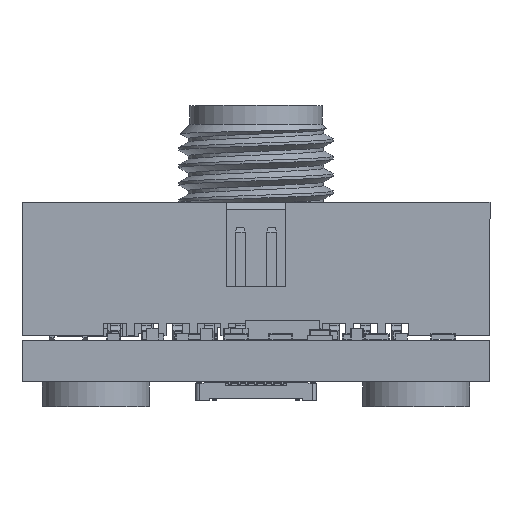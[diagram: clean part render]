
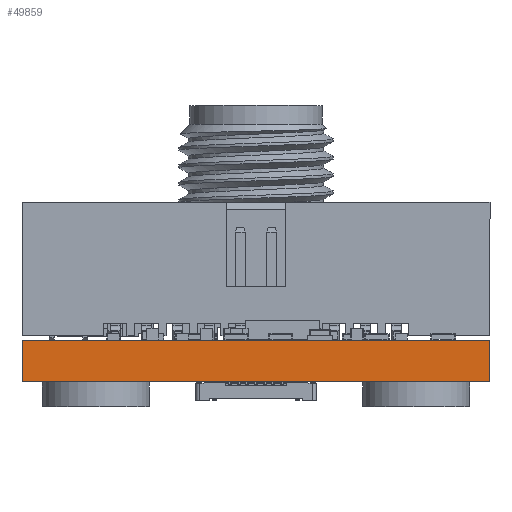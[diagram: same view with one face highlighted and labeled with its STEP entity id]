
A CAD part, left-side view. The second image highlights one B-rep face of the part: STEP entity #49859.
In plain terms, the highlighted planar face has unit normal (-1, 0, 0).
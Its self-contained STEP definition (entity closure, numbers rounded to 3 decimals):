
#11311=ORIENTED_EDGE('',*,*,#21219,.T.);
#11312=ORIENTED_EDGE('',*,*,#21223,.T.);
#11313=ORIENTED_EDGE('',*,*,#21224,.F.);
#11314=ORIENTED_EDGE('',*,*,#21225,.F.);
#21219=EDGE_CURVE('',#26799,#26800,#32024,.T.);
#21223=EDGE_CURVE('',#26800,#26803,#32028,.T.);
#21224=EDGE_CURVE('',#26804,#26803,#32029,.T.);
#21225=EDGE_CURVE('',#26799,#26804,#32030,.T.);
#26799=VERTEX_POINT('',#80710);
#26800=VERTEX_POINT('',#80711);
#26803=VERTEX_POINT('',#80719);
#26804=VERTEX_POINT('',#80721);
#32024=LINE('',#80709,#37889);
#32028=LINE('',#80718,#37893);
#32029=LINE('',#80720,#37894);
#32030=LINE('',#80722,#37895);
#37889=VECTOR('',#63893,1000.);
#37893=VECTOR('',#63899,1000.);
#37894=VECTOR('',#63900,1000.);
#37895=VECTOR('',#63901,1000.);
#42015=EDGE_LOOP('',(#11311,#11312,#11313,#11314));
#44981=FACE_BOUND('',#42015,.T.);
#47346=PLANE('',#53595);
#49859=ADVANCED_FACE('',(#44981),#47346,.F.);
#53595=AXIS2_PLACEMENT_3D('',#80717,#63897,#63898);
#63893=DIRECTION('',(0.,-1.,0.));
#63897=DIRECTION('',(1.,0.,0.));
#63898=DIRECTION('',(0.,-1.,0.));
#63899=DIRECTION('',(0.,0.,1.));
#63900=DIRECTION('',(0.,-1.,0.));
#63901=DIRECTION('',(0.,0.,1.));
#80709=CARTESIAN_POINT('',(-15.,9.5,-1.67));
#80710=CARTESIAN_POINT('',(-15.,9.5,-1.67));
#80711=CARTESIAN_POINT('',(-15.,-9.5,-1.67));
#80717=CARTESIAN_POINT('',(-15.,9.5,-1.67));
#80718=CARTESIAN_POINT('',(-15.,-9.5,-1.67));
#80719=CARTESIAN_POINT('',(-15.,-9.5,0.));
#80720=CARTESIAN_POINT('',(-15.,9.5,0.));
#80721=CARTESIAN_POINT('',(-15.,9.5,0.));
#80722=CARTESIAN_POINT('',(-15.,9.5,-1.67));
